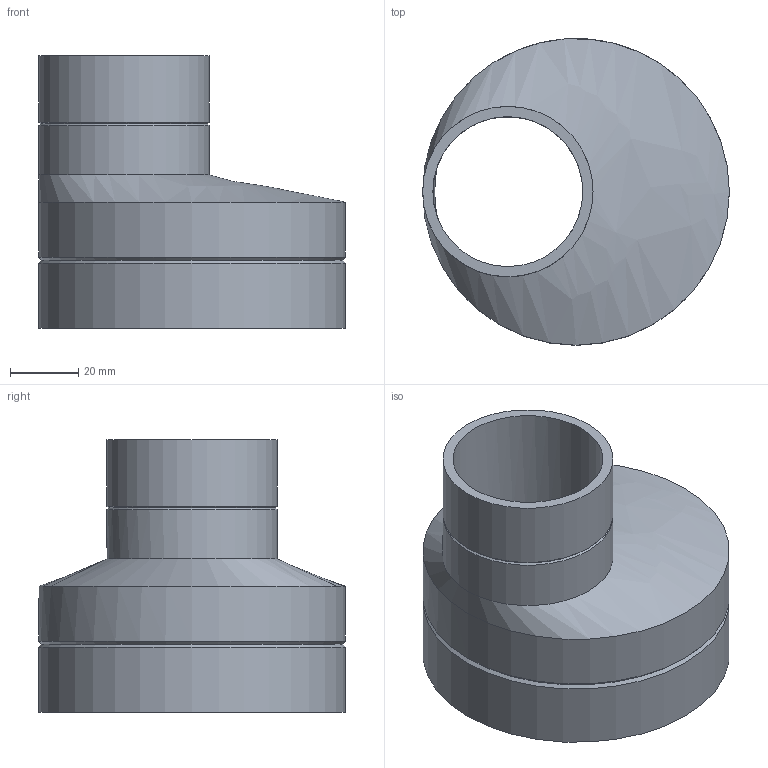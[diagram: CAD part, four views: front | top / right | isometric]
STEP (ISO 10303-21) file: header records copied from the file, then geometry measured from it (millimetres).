
FILE_DESCRIPTION(/* description */ (''),/* implementation_level */ '2;1');
FILE_NAME(/* name */ 'Z:\Geberit\Export\NewStep\366561.stp',/* time_stamp */ '2014-04-02T07:54:23+02:00',/* author */ ('nelson'),/* organization */ (''),/* preprocessor_version */ 'ST-DEVELOPER v15.2',/* originating_system */ 'Autodesk Inventor 2014',/* authorisation */ '');
FILE_SCHEMA (('AUTOMOTIVE_DESIGN { 1 0 10303 214 3 1 1 }'));
Length unit declared in the file: millimetre
Products named in the file (1): 366561
Bounding box: 90 x 90 x 80 mm (x, y, z)
Volume: 55918 mm3; surface area: 41567.8 mm2
Topology: 1 solids, 1 shells, 14 faces, 38 edges, 26 vertices
Faces by surface type: cylinder 6, cone 4, bspline 2, plane 2
Full cylindrical faces by diameter (mm): 44 x1, 50 x2, 83 x1, 90 x2
Entity records: 417 total; most frequent: CARTESIAN_POINT 93, DIRECTION 66, ORIENTED_EDGE 44, AXIS2_PLACEMENT_3D 33, EDGE_LOOP 26, EDGE_CURVE 22, CIRCLE 20, VERTEX_POINT 20
